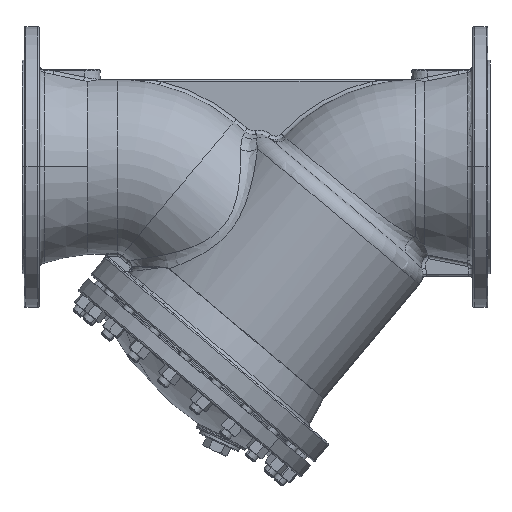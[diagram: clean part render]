
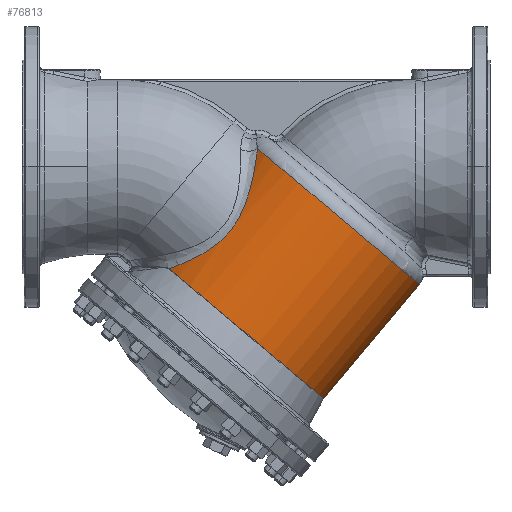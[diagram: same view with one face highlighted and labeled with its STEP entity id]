
A CAD part, top view. The second image highlights one B-rep face of the part: STEP entity #76813.
In plain terms, the highlighted cylindrical face has radius 144 mm (diameter 288 mm), a partial arc.
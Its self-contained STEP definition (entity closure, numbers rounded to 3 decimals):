
#2617 = EDGE_CURVE ( 'NONE', #18029, #18028, #16142, .T. ) ;
#3628 = VERTEX_POINT ( 'NONE', #20597 ) ;
#10767 = EDGE_LOOP ( 'NONE', ( #59156, #59155, #59157, #59135 ) ) ;
#14742 = AXIS2_PLACEMENT_3D ( 'NONE', #20209, #20210, #20211 ) ;
#16142 = CIRCLE ( 'NONE', #14742, 144. ) ;
#18028 = VERTEX_POINT ( 'NONE', #57264 ) ;
#18029 = VERTEX_POINT ( 'NONE', #57265 ) ;
#20209 = CARTESIAN_POINT ( 'NONE',  ( -323.497, -204.382, 0. ) ) ;
#20210 = DIRECTION ( 'NONE',  ( 0.643, 0.766, 0. ) ) ;
#20211 = DIRECTION ( 'NONE',  ( 0.766, -0.643, 0. ) ) ;
#20597 = CARTESIAN_POINT ( 'NONE',  ( -90.541, -150.781, 0. ) ) ;
#26835 = LINE ( 'NONE', #60303, #26838 ) ;
#26838 = VECTOR ( 'NONE', #60304, 1000. ) ;
#52576 = EDGE_CURVE ( 'NONE', #3628, #18028, #26835, .T. ) ;
#57264 = CARTESIAN_POINT ( 'NONE',  ( -213.187, -296.944, 0. ) ) ;
#57265 = CARTESIAN_POINT ( 'NONE',  ( -411.508, -130.532, 86.811 ) ) ;
#59135 = ORIENTED_EDGE ( 'NONE', *, *, #2617, .T. ) ;
#59155 = ORIENTED_EDGE ( 'NONE', *, *, #63680, .T. ) ;
#59156 = ORIENTED_EDGE ( 'NONE', *, *, #52576, .F. ) ;
#59157 = ORIENTED_EDGE ( 'NONE', *, *, #65196, .T. ) ;
#60303 = CARTESIAN_POINT ( 'NONE',  ( -77.686, -135.46, 0. ) ) ;
#60304 = DIRECTION ( 'NONE',  ( -0.643, -0.766, 0. ) ) ;
#61144 = CIRCLE ( 'NONE', #64591, 144. ) ;
#63579 = CARTESIAN_POINT ( 'NONE',  ( -200.852, -58.219, 0. ) ) ;
#63580 = DIRECTION ( 'NONE',  ( -0.643, -0.766, 0. ) ) ;
#63581 = DIRECTION ( 'NONE',  ( 0.766, -0.643, 0. ) ) ;
#63680 = EDGE_CURVE ( 'NONE', #3628, #64451, #61144, .T. ) ;
#64451 = VERTEX_POINT ( 'NONE', #65735 ) ;
#64591 = AXIS2_PLACEMENT_3D ( 'NONE', #63579, #63580, #63581 ) ;
#65196 = EDGE_CURVE ( 'NONE', #64451, #18029, #71770, .T. ) ;
#65735 = CARTESIAN_POINT ( 'NONE',  ( -298.034, 23.326, 68.132 ) ) ;
#67770 = CARTESIAN_POINT ( 'NONE',  ( -298.034, 23.326, 68.132 ) ) ;
#67779 = CARTESIAN_POINT ( 'NONE',  ( -298.425, 20.057, 71.487 ) ) ;
#67780 = CARTESIAN_POINT ( 'NONE',  ( -298.862, 16.626, 74.652 ) ) ;
#67781 = CARTESIAN_POINT ( 'NONE',  ( -299.606, 11.267, 79.143 ) ) ;
#67782 = CARTESIAN_POINT ( 'NONE',  ( -299.868, 9.444, 80.597 ) ) ;
#67783 = CARTESIAN_POINT ( 'NONE',  ( -300.427, 5.732, 83.423 ) ) ;
#67784 = CARTESIAN_POINT ( 'NONE',  ( -300.722, 3.852, 84.788 ) ) ;
#67785 = CARTESIAN_POINT ( 'NONE',  ( -301.657, -1.853, 88.742 ) ) ;
#67786 = CARTESIAN_POINT ( 'NONE',  ( -302.349, -5.742, 91.195 ) ) ;
#67787 = CARTESIAN_POINT ( 'NONE',  ( -303.909, -13.669, 95.765 ) ) ;
#67788 = CARTESIAN_POINT ( 'NONE',  ( -304.777, -17.705, 97.882 ) ) ;
#67789 = CARTESIAN_POINT ( 'NONE',  ( -306.747, -25.906, 101.792 ) ) ;
#67790 = CARTESIAN_POINT ( 'NONE',  ( -307.848, -30.07, 103.586 ) ) ;
#67791 = CARTESIAN_POINT ( 'NONE',  ( -309.424, -35.345, 105.626 ) ) ;
#67792 = CARTESIAN_POINT ( 'NONE',  ( -309.75, -36.402, 106.023 ) ) ;
#67793 = CARTESIAN_POINT ( 'NONE',  ( -310.418, -38.514, 106.794 ) ) ;
#67794 = CARTESIAN_POINT ( 'NONE',  ( -310.762, -39.569, 107.167 ) ) ;
#67795 = CARTESIAN_POINT ( 'NONE',  ( -311.823, -42.73, 108.253 ) ) ;
#67796 = CARTESIAN_POINT ( 'NONE',  ( -312.572, -44.834, 108.931 ) ) ;
#67797 = CARTESIAN_POINT ( 'NONE',  ( -314.954, -51.127, 110.824 ) ) ;
#67798 = CARTESIAN_POINT ( 'NONE',  ( -316.726, -55.297, 111.901 ) ) ;
#67799 = CARTESIAN_POINT ( 'NONE',  ( -319.741, -61.484, 113.225 ) ) ;
#67800 = CARTESIAN_POINT ( 'NONE',  ( -320.805, -63.535, 113.617 ) ) ;
#67801 = CARTESIAN_POINT ( 'NONE',  ( -322.503, -66.59, 114.13 ) ) ;
#67802 = CARTESIAN_POINT ( 'NONE',  ( -323.084, -67.602, 114.287 ) ) ;
#67803 = CARTESIAN_POINT ( 'NONE',  ( -324.274, -69.605, 114.574 ) ) ;
#67804 = CARTESIAN_POINT ( 'NONE',  ( -324.882, -70.596, 114.704 ) ) ;
#67805 = CARTESIAN_POINT ( 'NONE',  ( -327.999, -75.504, 115.285 ) ) ;
#67806 = CARTESIAN_POINT ( 'NONE',  ( -330.725, -79.27, 115.531 ) ) ;
#67807 = CARTESIAN_POINT ( 'NONE',  ( -335.187, -84.661, 115.565 ) ) ;
#67808 = CARTESIAN_POINT ( 'NONE',  ( -336.737, -86.415, 115.521 ) ) ;
#67809 = CARTESIAN_POINT ( 'NONE',  ( -339.155, -88.981, 115.37 ) ) ;
#67810 = CARTESIAN_POINT ( 'NONE',  ( -339.978, -89.826, 115.305 ) ) ;
#67811 = CARTESIAN_POINT ( 'NONE',  ( -341.641, -91.482, 115.148 ) ) ;
#67812 = CARTESIAN_POINT ( 'NONE',  ( -342.482, -92.293, 115.055 ) ) ;
#67813 = CARTESIAN_POINT ( 'NONE',  ( -346.74, -96.276, 114.526 ) ) ;
#67814 = CARTESIAN_POINT ( 'NONE',  ( -350.303, -99.219, 113.888 ) ) ;
#67815 = CARTESIAN_POINT ( 'NONE',  ( -355.838, -103.326, 112.626 ) ) ;
#67816 = CARTESIAN_POINT ( 'NONE',  ( -357.715, -104.645, 112.154 ) ) ;
#67817 = CARTESIAN_POINT ( 'NONE',  ( -360.573, -106.553, 111.37 ) ) ;
#67818 = CARTESIAN_POINT ( 'NONE',  ( -361.533, -107.178, 111.095 ) ) ;
#67819 = CARTESIAN_POINT ( 'NONE',  ( -363.458, -108.4, 110.524 ) ) ;
#67820 = CARTESIAN_POINT ( 'NONE',  ( -364.422, -108.997, 110.227 ) ) ;
#67821 = CARTESIAN_POINT ( 'NONE',  ( -369.252, -111.921, 108.686 ) ) ;
#67822 = CARTESIAN_POINT ( 'NONE',  ( -373.144, -114.059, 107.276 ) ) ;
#67823 = CARTESIAN_POINT ( 'NONE',  ( -380.939, -118.03, 104.112 ) ) ;
#67824 = CARTESIAN_POINT ( 'NONE',  ( -384.842, -119.863, 102.359 ) ) ;
#67825 = CARTESIAN_POINT ( 'NONE',  ( -390.677, -122.435, 99.465 ) ) ;
#67826 = CARTESIAN_POINT ( 'NONE',  ( -392.618, -123.263, 98.456 ) ) ;
#67827 = CARTESIAN_POINT ( 'NONE',  ( -395.522, -124.464, 96.875 ) ) ;
#67828 = CARTESIAN_POINT ( 'NONE',  ( -396.489, -124.858, 96.336 ) ) ;
#67829 = CARTESIAN_POINT ( 'NONE',  ( -398.413, -125.631, 95.239 ) ) ;
#67830 = CARTESIAN_POINT ( 'NONE',  ( -399.371, -126.01, 94.681 ) ) ;
#67831 = CARTESIAN_POINT ( 'NONE',  ( -404.133, -127.869, 91.84 ) ) ;
#67832 = CARTESIAN_POINT ( 'NONE',  ( -407.866, -129.246, 89.409 ) ) ;
#67833 = CARTESIAN_POINT ( 'NONE',  ( -411.508, -130.532, 86.811 ) ) ;
#68443 = AXIS2_PLACEMENT_3D ( 'NONE', #75485, #75484, #75479 ) ;
#69557 = FACE_OUTER_BOUND ( 'NONE', #10767, .T. ) ;
#69569 = CYLINDRICAL_SURFACE ( 'NONE', #68443, 144. ) ;
#71770 = B_SPLINE_CURVE_WITH_KNOTS ( 'NONE', 3,
 ( #67770, #67779, #67780, #67781, #67782, #67783, #67784, #67785, #67786, #67787, #67788, #67789, #67790, #67791, #67792, #67793, #67794, #67795, #67796, #67797, #67798, #67799, #67800, #67801, #67802, #67803, #67804, #67805, #67806, #67807, #67808, #67809, #67810, #67811, #67812, #67813, #67814, #67815, #67816, #67817, #67818, #67819, #67820, #67821, #67822, #67823, #67824, #67825, #67826, #67827, #67828, #67829, #67830, #67831, #67832, #67833 ),
 .UNSPECIFIED., .F., .F.,
 ( 4, 2, 2, 2, 2, 2, 2, 2, 2, 2, 2, 2, 2, 2, 2, 2, 2, 2, 2, 2, 2, 2, 2, 2, 2, 2, 2, 4 ),
 ( 0., 0.014, 0.021, 0.028, 0.042, 0.056, 0.07, 0.074, 0.077, 0.084, 0.098, 0.105, 0.109, 0.112, 0.127, 0.134, 0.137, 0.141, 0.155, 0.162, 0.165, 0.169, 0.183, 0.197, 0.204, 0.207, 0.211, 0.225 ),
 .UNSPECIFIED. ) ;
#75479 = DIRECTION ( 'NONE',  ( 0.766, -0.643, 0. ) ) ;
#75484 = DIRECTION ( 'NONE',  ( -0.643, -0.766, 0. ) ) ;
#75485 = CARTESIAN_POINT ( 'NONE',  ( -187.996, -42.898, 0. ) ) ;
#76813 = ADVANCED_FACE ( 'NONE', ( #69557 ), #69569, .T. ) ;
